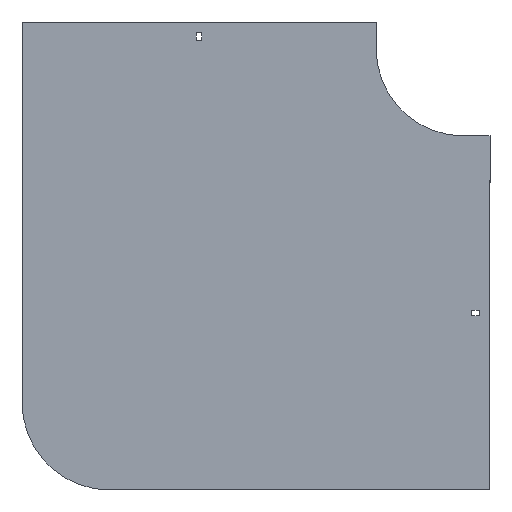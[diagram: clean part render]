
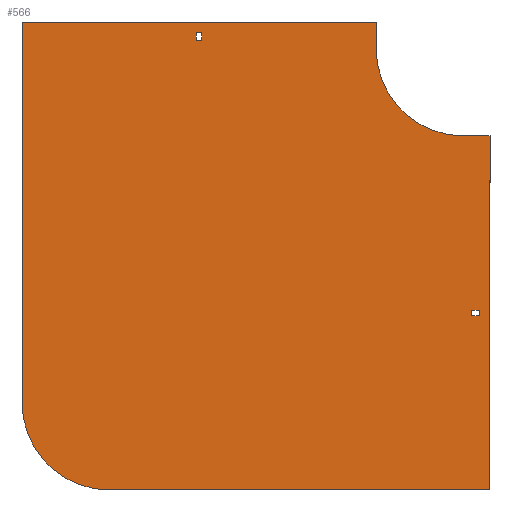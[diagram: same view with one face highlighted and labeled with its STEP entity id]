
A CAD part, front view. The second image highlights one B-rep face of the part: STEP entity #566.
In plain terms, the highlighted planar face has unit normal (0, -1, 0).
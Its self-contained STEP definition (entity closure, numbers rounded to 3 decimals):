
#22 = EDGE_LOOP ( 'NONE', ( #281, #129, #226, #1794, #814, #60, #324, #334 ) ) ;
#42 = VECTOR ( 'NONE', #1641, 1000. ) ;
#60 = ORIENTED_EDGE ( 'NONE', *, *, #1562, .F. ) ;
#89 = CARTESIAN_POINT ( 'NONE',  ( -305.25, 0., 9. ) ) ;
#94 = DIRECTION ( 'NONE',  ( 1., 0., 0. ) ) ;
#114 = CARTESIAN_POINT ( 'NONE',  ( -305.25, 0., 18. ) ) ;
#129 = ORIENTED_EDGE ( 'NONE', *, *, #1319, .F. ) ;
#138 = EDGE_CURVE ( 'NONE', #1393, #223, #406, .T. ) ;
#152 = CARTESIAN_POINT ( 'NONE',  ( -298.75, 0., 9. ) ) ;
#162 = CARTESIAN_POINT ( 'NONE',  ( 9., 0., -305.25 ) ) ;
#165 = CARTESIAN_POINT ( 'NONE',  ( 9., 0., -298.75 ) ) ;
#167 = VERTEX_POINT ( 'NONE', #1605 ) ;
#202 = ORIENTED_EDGE ( 'NONE', *, *, #1485, .T. ) ;
#223 = VERTEX_POINT ( 'NONE', #1398 ) ;
#226 = ORIENTED_EDGE ( 'NONE', *, *, #517, .F. ) ;
#261 = VERTEX_POINT ( 'NONE', #1121 ) ;
#262 = EDGE_CURVE ( 'NONE', #1100, #711, #1092, .T. ) ;
#281 = ORIENTED_EDGE ( 'NONE', *, *, #1378, .F. ) ;
#285 = VECTOR ( 'NONE', #94, 1000. ) ;
#292 = ORIENTED_EDGE ( 'NONE', *, *, #1142, .T. ) ;
#297 = CARTESIAN_POINT ( 'NONE',  ( 9., 0., -305.25 ) ) ;
#317 = CARTESIAN_POINT ( 'NONE',  ( 30., 0., -504. ) ) ;
#320 = CARTESIAN_POINT ( 'NONE',  ( 0., 0., -100. ) ) ;
#321 = VECTOR ( 'NONE', #426, 1000. ) ;
#324 = ORIENTED_EDGE ( 'NONE', *, *, #262, .F. ) ;
#326 = LINE ( 'NONE', #473, #660 ) ;
#327 = LINE ( 'NONE', #1224, #848 ) ;
#331 = CARTESIAN_POINT ( 'NONE',  ( 30., 0., -504. ) ) ;
#334 = ORIENTED_EDGE ( 'NONE', *, *, #1354, .F. ) ;
#342 = DIRECTION ( 'NONE',  ( 0., 0., -1. ) ) ;
#355 = LINE ( 'NONE', #1846, #412 ) ;
#362 = CARTESIAN_POINT ( 'NONE',  ( 18., 0., -298.75 ) ) ;
#374 = LINE ( 'NONE', #89, #1635 ) ;
#389 = LINE ( 'NONE', #1904, #285 ) ;
#406 = LINE ( 'NONE', #162, #1060 ) ;
#412 = VECTOR ( 'NONE', #527, 1000. ) ;
#426 = DIRECTION ( 'NONE',  ( -1., 0., 0. ) ) ;
#438 = VERTEX_POINT ( 'NONE', #114 ) ;
#458 = LINE ( 'NONE', #923, #1352 ) ;
#460 = CARTESIAN_POINT ( 'NONE',  ( -100., 0., 30. ) ) ;
#473 = CARTESIAN_POINT ( 'NONE',  ( 9., 0., -305.25 ) ) ;
#478 = CARTESIAN_POINT ( 'NONE',  ( 30., 0., -100. ) ) ;
#517 = EDGE_CURVE ( 'NONE', #1201, #167, #1719, .T. ) ;
#522 = LINE ( 'NONE', #1264, #845 ) ;
#526 = AXIS2_PLACEMENT_3D ( 'NONE', #876, #1942, #1362 ) ;
#527 = DIRECTION ( 'NONE',  ( 0., 0., 1. ) ) ;
#545 = EDGE_CURVE ( 'NONE', #438, #852, #1809, .T. ) ;
#566 = ADVANCED_FACE ( 'NONE', ( #727, #1482, #1932 ), #1026, .T. ) ;
#569 = EDGE_CURVE ( 'NONE', #709, #1393, #326, .T. ) ;
#593 = VECTOR ( 'NONE', #1021, 1000. ) ;
#595 = LINE ( 'NONE', #317, #321 ) ;
#626 = DIRECTION ( 'NONE',  ( 0., 0., -1. ) ) ;
#660 = VECTOR ( 'NONE', #1069, 1000. ) ;
#664 = DIRECTION ( 'NONE',  ( 0., -1., 0. ) ) ;
#709 = VERTEX_POINT ( 'NONE', #1804 ) ;
#711 = VERTEX_POINT ( 'NONE', #320 ) ;
#716 = VERTEX_POINT ( 'NONE', #478 ) ;
#721 = EDGE_CURVE ( 'NONE', #794, #709, #1935, .T. ) ;
#727 = FACE_BOUND ( 'NONE', #1696, .T. ) ;
#739 = EDGE_CURVE ( 'NONE', #716, #1129, #1192, .T. ) ;
#754 = CARTESIAN_POINT ( 'NONE',  ( -504., 0., 30. ) ) ;
#794 = VERTEX_POINT ( 'NONE', #362 ) ;
#806 = VECTOR ( 'NONE', #1948, 1000. ) ;
#814 = ORIENTED_EDGE ( 'NONE', *, *, #739, .F. ) ;
#845 = VECTOR ( 'NONE', #1530, 1000. ) ;
#848 = VECTOR ( 'NONE', #1373, 1000. ) ;
#852 = VERTEX_POINT ( 'NONE', #1152 ) ;
#876 = CARTESIAN_POINT ( 'NONE',  ( -404., 0., -404. ) ) ;
#885 = EDGE_LOOP ( 'NONE', ( #1614, #1536, #1170, #1462 ) ) ;
#917 = CARTESIAN_POINT ( 'NONE',  ( 0., 0., 0. ) ) ;
#923 = CARTESIAN_POINT ( 'NONE',  ( -298.75, 0., 9. ) ) ;
#965 = EDGE_CURVE ( 'NONE', #1781, #261, #374, .T. ) ;
#969 = EDGE_CURVE ( 'NONE', #1129, #1201, #595, .T. ) ;
#1021 = DIRECTION ( 'NONE',  ( 1., 0., 0. ) ) ;
#1026 = PLANE ( 'NONE',  #1848 ) ;
#1055 = CARTESIAN_POINT ( 'NONE',  ( -305.25, 0., 18. ) ) ;
#1060 = VECTOR ( 'NONE', #1356, 1000. ) ;
#1069 = DIRECTION ( 'NONE',  ( 0., 0., -1. ) ) ;
#1092 = CIRCLE ( 'NONE', #1597, 100. ) ;
#1100 = VERTEX_POINT ( 'NONE', #1245 ) ;
#1121 = CARTESIAN_POINT ( 'NONE',  ( -305.25, 0., 9. ) ) ;
#1129 = VERTEX_POINT ( 'NONE', #331 ) ;
#1142 = EDGE_CURVE ( 'NONE', #852, #1781, #458, .T. ) ;
#1152 = CARTESIAN_POINT ( 'NONE',  ( -298.75, 0., 18. ) ) ;
#1170 = ORIENTED_EDGE ( 'NONE', *, *, #569, .F. ) ;
#1181 = CARTESIAN_POINT ( 'NONE',  ( 30., 0., -100. ) ) ;
#1184 = CARTESIAN_POINT ( 'NONE',  ( -100., 0., 30. ) ) ;
#1192 = LINE ( 'NONE', #1181, #1947 ) ;
#1195 = DIRECTION ( 'NONE',  ( 0., 0., -1. ) ) ;
#1197 = VERTEX_POINT ( 'NONE', #1184 ) ;
#1201 = VERTEX_POINT ( 'NONE', #1488 ) ;
#1224 = CARTESIAN_POINT ( 'NONE',  ( -504., 0., -404. ) ) ;
#1245 = CARTESIAN_POINT ( 'NONE',  ( -100., 0., 0. ) ) ;
#1264 = CARTESIAN_POINT ( 'NONE',  ( -305.25, 0., 9. ) ) ;
#1269 = EDGE_CURVE ( 'NONE', #223, #794, #355, .T. ) ;
#1290 = ORIENTED_EDGE ( 'NONE', *, *, #965, .T. ) ;
#1319 = EDGE_CURVE ( 'NONE', #167, #1774, #327, .T. ) ;
#1352 = VECTOR ( 'NONE', #1195, 1000. ) ;
#1354 = EDGE_CURVE ( 'NONE', #1197, #1100, #1363, .T. ) ;
#1356 = DIRECTION ( 'NONE',  ( 1., 0., 0. ) ) ;
#1362 = DIRECTION ( 'NONE',  ( 0., 0., 1. ) ) ;
#1363 = LINE ( 'NONE', #460, #1478 ) ;
#1373 = DIRECTION ( 'NONE',  ( 0., 0., 1. ) ) ;
#1378 = EDGE_CURVE ( 'NONE', #1774, #1197, #1832, .T. ) ;
#1393 = VERTEX_POINT ( 'NONE', #297 ) ;
#1398 = CARTESIAN_POINT ( 'NONE',  ( 18., 0., -305.25 ) ) ;
#1406 = CARTESIAN_POINT ( 'NONE',  ( 0., 0., 0. ) ) ;
#1430 = DIRECTION ( 'NONE',  ( -1., 0., 0. ) ) ;
#1462 = ORIENTED_EDGE ( 'NONE', *, *, #721, .F. ) ;
#1478 = VECTOR ( 'NONE', #626, 1000. ) ;
#1482 = FACE_OUTER_BOUND ( 'NONE', #22, .T. ) ;
#1485 = EDGE_CURVE ( 'NONE', #261, #438, #522, .T. ) ;
#1488 = CARTESIAN_POINT ( 'NONE',  ( -404., 0., -504. ) ) ;
#1495 = DIRECTION ( 'NONE',  ( 0., 0., -1. ) ) ;
#1530 = DIRECTION ( 'NONE',  ( 0., 0., 1. ) ) ;
#1536 = ORIENTED_EDGE ( 'NONE', *, *, #138, .F. ) ;
#1562 = EDGE_CURVE ( 'NONE', #711, #716, #389, .T. ) ;
#1593 = ORIENTED_EDGE ( 'NONE', *, *, #545, .T. ) ;
#1597 = AXIS2_PLACEMENT_3D ( 'NONE', #1406, #664, #342 ) ;
#1605 = CARTESIAN_POINT ( 'NONE',  ( -504., 0., -404. ) ) ;
#1614 = ORIENTED_EDGE ( 'NONE', *, *, #1269, .F. ) ;
#1635 = VECTOR ( 'NONE', #1430, 1000. ) ;
#1641 = DIRECTION ( 'NONE',  ( 1., 0., 0. ) ) ;
#1674 = DIRECTION ( 'NONE',  ( 0., 0., -1. ) ) ;
#1696 = EDGE_LOOP ( 'NONE', ( #202, #1593, #292, #1290 ) ) ;
#1719 = CIRCLE ( 'NONE', #526, 100. ) ;
#1774 = VERTEX_POINT ( 'NONE', #1803 ) ;
#1781 = VERTEX_POINT ( 'NONE', #152 ) ;
#1794 = ORIENTED_EDGE ( 'NONE', *, *, #969, .F. ) ;
#1803 = CARTESIAN_POINT ( 'NONE',  ( -504., 0., 30. ) ) ;
#1804 = CARTESIAN_POINT ( 'NONE',  ( 9., 0., -298.75 ) ) ;
#1809 = LINE ( 'NONE', #1055, #593 ) ;
#1821 = DIRECTION ( 'NONE',  ( 0., -1., 0. ) ) ;
#1832 = LINE ( 'NONE', #754, #42 ) ;
#1846 = CARTESIAN_POINT ( 'NONE',  ( 18., 0., -305.25 ) ) ;
#1848 = AXIS2_PLACEMENT_3D ( 'NONE', #917, #1821, #1674 ) ;
#1904 = CARTESIAN_POINT ( 'NONE',  ( 0., 0., -100. ) ) ;
#1932 = FACE_BOUND ( 'NONE', #885, .T. ) ;
#1935 = LINE ( 'NONE', #165, #806 ) ;
#1942 = DIRECTION ( 'NONE',  ( 0., 1., 0. ) ) ;
#1947 = VECTOR ( 'NONE', #1495, 1000. ) ;
#1948 = DIRECTION ( 'NONE',  ( -1., 0., 0. ) ) ;
